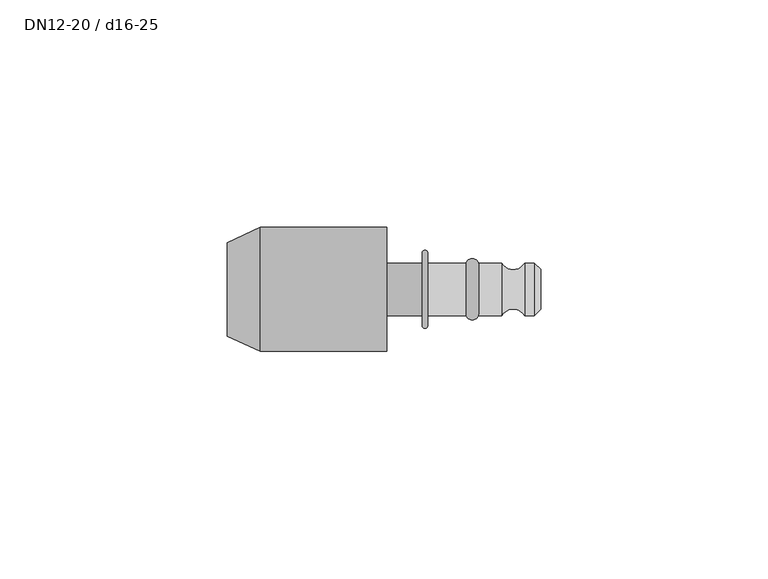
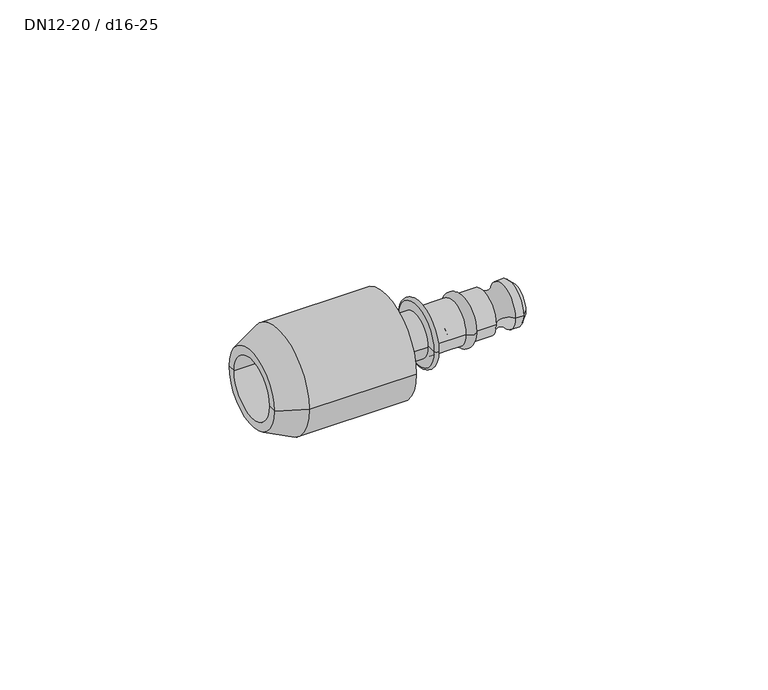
"""IFC4 building model written with IfcOpenShell, lengths in millimetres: pipe fitting geometry, NLRS_50_PIF_UN_PushFit overgang naar Geberit Mepla_geb : DN12-20 / d16-25."""

from ifc_helpers import new_model, si_unit, point, frame, origin, origin_2d, place, context, project, spatial, polyline, circle_curve, ellipse_curve, trimmed, segment, composite_curve, outline, extrude, source, transform, mapped, element, save
from ifc_brep_helpers import plane_surface, cylinder_surface, revolved_surface, advanced_brep


def dn12_20_d16_25_af78eb85(model_context):
    return source(origin(), model_context, "Body", "SolidModel", [
        advanced_brep(
        [(17.4195019, 5.75, 0.0), (17.4195019, -5.75, 0.0), (9.0, -5.75, 0.0), (9.0, 5.75, 0.0), (20.1804981, 5.75, 0.0), (20.1804981, -5.75, 0.0), (25.3, 5.75, 0.0), (25.3, -5.75, 0.0), (30.3, 5.75, 0.0), (30.3, -5.75, 0.0), (32.4212479, 5.75, 0.0), (32.4212479, -5.75, 0.0), (33.8, 0.0, 0.0), (33.8, -4.3712479, 0.0), (33.8, 4.3712479, 0.0), (7.8, 8.0, 0.0), (7.8, -8.0, 0.0), (7.8, 0.0, 0.0), (9.0, 8.0, 0.0), (9.0, -8.0, 0.0)],
        [
            (0, 1, circle_curve(frame((17.4195019, 0.0, 0.0), z_axis=(-1.0, 0.0, 0.0), x_axis=(0.0, -1.0000000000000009, 0.0)), 5.75)),
            (1, 2),
            (2, 3, circle_curve(frame((9.0, 0.0, 0.0), z_axis=(1.0, 0.0, 0.0), x_axis=(0.0, -1.0000000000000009, 0.0)), 5.75)),
            (3, 0),
            (1, 0, circle_curve(frame((17.4195019, 0.0, 0.0), z_axis=(-1.0, 0.0, 0.0), x_axis=(0.0, -1.0000000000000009, 0.0)), 5.75)),
            (3, 2, circle_curve(frame((9.0, 0.0, 0.0), z_axis=(1.0, 0.0, 0.0), x_axis=(0.0, -1.0000000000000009, 0.0)), 5.75)),
            (4, 5, circle_curve(frame((20.1804981, 0.0, 0.0), z_axis=(-1.0, 0.0, 0.0), x_axis=(0.0, -1.0000000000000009, 0.0)), 5.75)),
            (5, 1, circle_curve(frame((18.8, -5.2811513, 0.0), z_axis=(0.0, 0.0, -1.0000000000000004), x_axis=(-1.0000000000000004, 0.0, 0.0)), 1.4579417)),
            (0, 4, circle_curve(frame((18.8, 5.2811513, 0.0), z_axis=(0.0, 0.0, -1.0000000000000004), x_axis=(-1.0000000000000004, 0.0, 0.0)), 1.4579417)),
            (5, 4, circle_curve(frame((20.1804981, 0.0, 0.0), z_axis=(-1.0, 0.0, 0.0), x_axis=(0.0, -1.0000000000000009, 0.0)), 5.75)),
            (6, 7, circle_curve(frame((25.3, 0.0, 0.0), z_axis=(-1.0, 0.0, 0.0), x_axis=(0.0, -1.0000000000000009, 0.0)), 5.75)),
            (7, 5),
            (4, 6),
            (7, 6, circle_curve(frame((25.3, 0.0, 0.0), z_axis=(-1.0, 0.0, 0.0), x_axis=(0.0, -1.0000000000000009, 0.0)), 5.75)),
            (8, 9, circle_curve(frame((30.3, 0.0, 0.0), z_axis=(-1.0, 0.0, 0.0), x_axis=(0.0, -1.0000000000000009, 0.0)), 5.75)),
            (9, 7, circle_curve(frame((27.8, -7.2233153, 0.0), z_axis=(0.0, 0.0, 1.0000000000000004), x_axis=(-1.0000000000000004, 0.0, 0.0)), 2.901837)),
            (6, 8, circle_curve(frame((27.8, 7.2233153, 0.0), z_axis=(0.0, 0.0, 1.0000000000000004), x_axis=(-1.0000000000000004, 0.0, 0.0)), 2.901837)),
            (9, 8, circle_curve(frame((30.3, 0.0, 0.0), z_axis=(-1.0, 0.0, 0.0), x_axis=(0.0, -1.0000000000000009, 0.0)), 5.75)),
            (10, 11, circle_curve(frame((32.4212479, 0.0, 0.0), z_axis=(-1.0, 0.0, 0.0), x_axis=(0.0, -1.0000000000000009, 0.0)), 5.75)),
            (11, 9),
            (8, 10),
            (11, 10, circle_curve(frame((32.4212479, 0.0, 0.0), z_axis=(-1.0, 0.0, 0.0), x_axis=(0.0, -1.0000000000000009, 0.0)), 5.75)),
            (12, 13),
            (13, 14, circle_curve(frame((33.8, 0.0, 0.0), z_axis=(1.0, 0.0, 0.0), x_axis=(0.0, -1.0000000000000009, 0.0)), 4.3712479)),
            (14, 12),
            (14, 13, circle_curve(frame((33.8, 0.0, 0.0), z_axis=(1.0, 0.0, 0.0), x_axis=(0.0, -1.0000000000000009, 0.0)), 4.3712479)),
            (15, 16, circle_curve(frame((7.8, 0.0, 0.0), z_axis=(-1.0, 0.0, 0.0), x_axis=(0.0, -1.0000000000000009, 0.0)), 8.0)),
            (16, 17),
            (17, 15),
            (16, 15, circle_curve(frame((7.8, 0.0, 0.0), z_axis=(-1.0, 0.0, 0.0), x_axis=(0.0, -1.0000000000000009, 0.0)), 8.0)),
            (18, 19, circle_curve(frame((9.0, 0.0, 0.0), z_axis=(-1.0, 0.0, 0.0), x_axis=(0.0, -1.0000000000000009, 0.0)), 8.0)),
            (19, 16, circle_curve(frame((8.4, -8.0, 0.0), z_axis=(0.0, 0.0, -1.0000000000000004), x_axis=(-1.0000000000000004, 0.0, 0.0)), 0.6)),
            (15, 18, circle_curve(frame((8.4, 8.0, 0.0), z_axis=(0.0, 0.0, -1.0000000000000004), x_axis=(-1.0000000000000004, 0.0, 0.0)), 0.6)),
            (19, 18, circle_curve(frame((9.0, 0.0, 0.0), z_axis=(-1.0, 0.0, 0.0), x_axis=(0.0, -1.0000000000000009, 0.0)), 8.0)),
            (2, 19),
            (18, 3),
            (13, 11),
            (10, 14),
        ],
        [
            cylinder_surface(frame((42.0935438, 0.0, 0.0), z_axis=(1.0000000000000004, 0.0, 0.0), x_axis=(0.0, -1.0000000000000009, 0.0)), 5.75),
            revolved_surface(trimmed(ellipse_curve(frame((18.8, -5.2811513, 0.0), z_axis=(0.0, 0.0, 1.0000000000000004), x_axis=(-1.0000000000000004, 0.0, 0.0)), 1.4579417, 1.4579417), [point((17.4195019, -5.75, 0.0))], [point((20.1804981, -5.75, 0.0))], True, "CARTESIAN"), (42.0935438, 0.0, 0.0), (1.0000000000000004, 0.0, 0.0)),
            revolved_surface(trimmed(ellipse_curve(frame((27.8, -7.2233153, 0.0), z_axis=(0.0, 0.0, -1.0000000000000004), x_axis=(-1.0000000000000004, 0.0, 0.0)), 2.901837, 2.901837), [point((25.3, -5.75, 0.0))], [point((30.3, -5.75, 0.0))], True, "CARTESIAN"), (42.0935438, 0.0, 0.0), (1.0000000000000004, 0.0, 0.0)),
            plane_surface(frame((33.8, 0.0, 0.0), z_axis=(1.0, 0.0, 0.0), x_axis=(0.0, -1.0, 0.0))),
            plane_surface(frame((7.8, 0.0, 0.0), z_axis=(-1.0, 0.0, 0.0), x_axis=(0.0, -1.0, 0.0))),
            revolved_surface(trimmed(ellipse_curve(frame((8.4, -8.0, 0.0), z_axis=(0.0, 0.0, 1.0000000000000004), x_axis=(-1.0000000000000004, 0.0, 0.0)), 0.6, 0.6), [point((7.8, -8.0, 0.0))], [point((9.0, -8.0, 0.0))], True, "CARTESIAN"), (42.0935438, 0.0, 0.0), (1.0000000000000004, 0.0, 0.0)),
            plane_surface(frame((9.0, 0.0, 0.0), z_axis=(1.0, 0.0, 0.0), x_axis=(0.0, -1.0, 0.0))),
            revolved_surface(polyline([(32.4212479, -5.75, 0.0), (33.8, -4.3712479, 0.0)]), (42.0935438, 0.0, 0.0), (1.0000000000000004, 0.0, 0.0)),
        ],
        [
            (0, [[1, 2, 3, 4]]),
            (0, [[5, -4, 6, -2]]),
            (1, [[7, 8, -1, 9]]),
            (1, [[10, -9, -5, -8]]),
            (0, [[11, 12, -7, 13]]),
            (0, [[14, -13, -10, -12]]),
            (2, [[15, 16, -11, 17]]),
            (2, [[18, -17, -14, -16]]),
            (0, [[19, 20, -15, 21]]),
            (0, [[22, -21, -18, -20]]),
            (3, [[23, 24, 25]]),
            (3, [[-25, 26, -23]]),
            (4, [[27, 28, 29]]),
            (4, [[30, -29, -28]]),
            (5, [[31, 32, -27, 33]]),
            (5, [[34, -33, -30, -32]]),
            (6, [[-3, 35, -31, 36]]),
            (6, [[-6, -36, -34, -35]]),
            (7, [[-24, 37, -19, 38]]),
            (7, [[-26, -38, -22, -37]]),
        ],
    ),
        advanced_brep(
        [(0.0, -13.6, 0.0), (0.0, 13.6, 0.0), (0.0, 0.0, 0.0), (-27.8159018, -13.6, 0.0), (-27.8159018, 13.6, 0.0), (-35.0, -10.25, 0.0), (-35.0, 10.25, 0.0), (-9.0, -8.0, 0.0), (-9.0, 8.0, 0.0), (-35.0, 8.0, 0.0), (-35.0, -8.0, 0.0), (-9.0, 0.0, 0.0)],
        [
            (0, 1, circle_curve(frame((0.0, 0.0, 0.0), z_axis=(1.0, 0.0, 0.0), x_axis=(0.0, 1.0, 0.0)), 13.6)),
            (1, 2),
            (2, 0),
            (1, 0, circle_curve(frame((0.0, 0.0, 0.0), z_axis=(1.0, 0.0, 0.0), x_axis=(0.0, 1.0, 0.0)), 13.6)),
            (3, 4, circle_curve(frame((-27.8159018, 0.0, 0.0), z_axis=(1.0, 0.0, 0.0), x_axis=(0.0, 1.0, 0.0)), 13.6)),
            (4, 1),
            (0, 3),
            (4, 3, circle_curve(frame((-27.8159018, 0.0, 0.0), z_axis=(1.0, 0.0, 0.0), x_axis=(0.0, 1.0, 0.0)), 13.6)),
            (5, 6, circle_curve(frame((-35.0, 0.0, 0.0), z_axis=(1.0, 0.0, 0.0), x_axis=(0.0, 1.0, 0.0)), 10.25)),
            (6, 4),
            (3, 5),
            (6, 5, circle_curve(frame((-35.0, 0.0, 0.0), z_axis=(1.0, 0.0, 0.0), x_axis=(0.0, 1.0, 0.0)), 10.25)),
            (7, 8, circle_curve(frame((-9.0, 0.0, 0.0), z_axis=(1.0, 0.0, 0.0), x_axis=(0.0, 1.0, 0.0)), 8.0)),
            (8, 9),
            (9, 10, circle_curve(frame((-35.0, 0.0, 0.0), z_axis=(-1.0, 0.0, 0.0), x_axis=(0.0, 1.0, 0.0)), 8.0)),
            (10, 7),
            (8, 7, circle_curve(frame((-9.0, 0.0, 0.0), z_axis=(1.0, 0.0, 0.0), x_axis=(0.0, 1.0, 0.0)), 8.0)),
            (10, 9, circle_curve(frame((-35.0, 0.0, 0.0), z_axis=(-1.0, 0.0, 0.0), x_axis=(0.0, 1.0, 0.0)), 8.0)),
            (11, 8),
            (7, 11),
            (9, 6),
            (5, 10),
        ],
        [
            plane_surface(frame((0.0, 0.0, 0.0), z_axis=(1.0, 0.0, 0.0), x_axis=(0.0, 1.0, 0.0))),
            cylinder_surface(frame((-45.0, 0.0, 0.0), z_axis=(-1.0, 0.0, 0.0), x_axis=(0.0, 1.0, 0.0)), 13.6),
            revolved_surface(polyline([(-27.8159018, 13.6, 0.0), (-35.0, 10.25, 0.0)]), (-45.0, 0.0, 0.0), (-1.0, 0.0, 0.0)),
            revolved_surface(polyline([(-35.0, 8.0, 0.0), (-9.0, 8.0, 0.0)]), (-45.0, 0.0, 0.0), (-1.0, 0.0, 0.0)),
            plane_surface(frame((-9.0, 0.0, 0.0), z_axis=(-1.0, 0.0, 0.0), x_axis=(0.0, 1.0, 0.0))),
            plane_surface(frame((-35.0, 0.0, 0.0), z_axis=(-1.0, 0.0, 0.0), x_axis=(0.0, 1.0, 0.0))),
        ],
        [
            (0, [[1, 2, 3]]),
            (0, [[4, -3, -2]]),
            (1, [[5, 6, -1, 7]]),
            (1, [[8, -7, -4, -6]]),
            (2, [[9, 10, -5, 11]]),
            (2, [[12, -11, -8, -10]]),
            (3, [[13, 14, 15, 16]]),
            (3, [[17, -16, 18, -14]]),
            (4, [[19, -13, 20]]),
            (4, [[-20, -17, -19]]),
            (5, [[-15, 21, -9, 22]]),
            (5, [[-18, -22, -12, -21]]),
        ],
    ),
        extrude(outline(composite_curve([segment(trimmed(circle_curve(origin_2d(), 5.75), [point((-5.75, 0.0))], [point((5.75, 0.0))], False, "CARTESIAN"), True, "CONTINUOUS"), segment(trimmed(circle_curve(origin_2d(), 5.75), [point((5.75, 0.0))], [point((-5.75, 0.0))], False, "CARTESIAN"), True, "CONTINUOUS")], self_intersect=False)), frame((-4.5, 0.0, 0.0), z_axis=(1.0, 0.0, 0.0), x_axis=(0.0, 1.0, 0.0)), (0.0, 0.0, 1.0), 13.5),
    ])


if __name__ == "__main__":
    model = new_model("IFC4")
    model_context = context("Model", 3, world=origin())
    ifc_project = project(units=[si_unit("LENGTHUNIT", "METRE", prefix="MILLI")], contexts=[model_context])
    site = spatial("IfcSite", under=ifc_project)
    building = spatial("IfcBuilding", under=site)
    placement = place(None, origin())
    dn12_20_d16_25_shape = dn12_20_d16_25_af78eb85(model_context)
    element("IfcPipeFitting", 1, ObjectType="NLRS_50_PIF_UN_PushFit overgang naar Geberit Mepla_geb : DN12-20 / d16-25", at=placement, inside=building, context=model_context, shape_type="MappedRepresentation", body=[
        mapped(dn12_20_d16_25_shape, transform((0.0, 0.0, 0.0), x_axis=(1.0, 0.0, 0.0), y_axis=(0.0, 1.0, 0.0), z_axis=(0.0, 0.0, 1.0))),
    ])
    save(model, "model.ifc")
